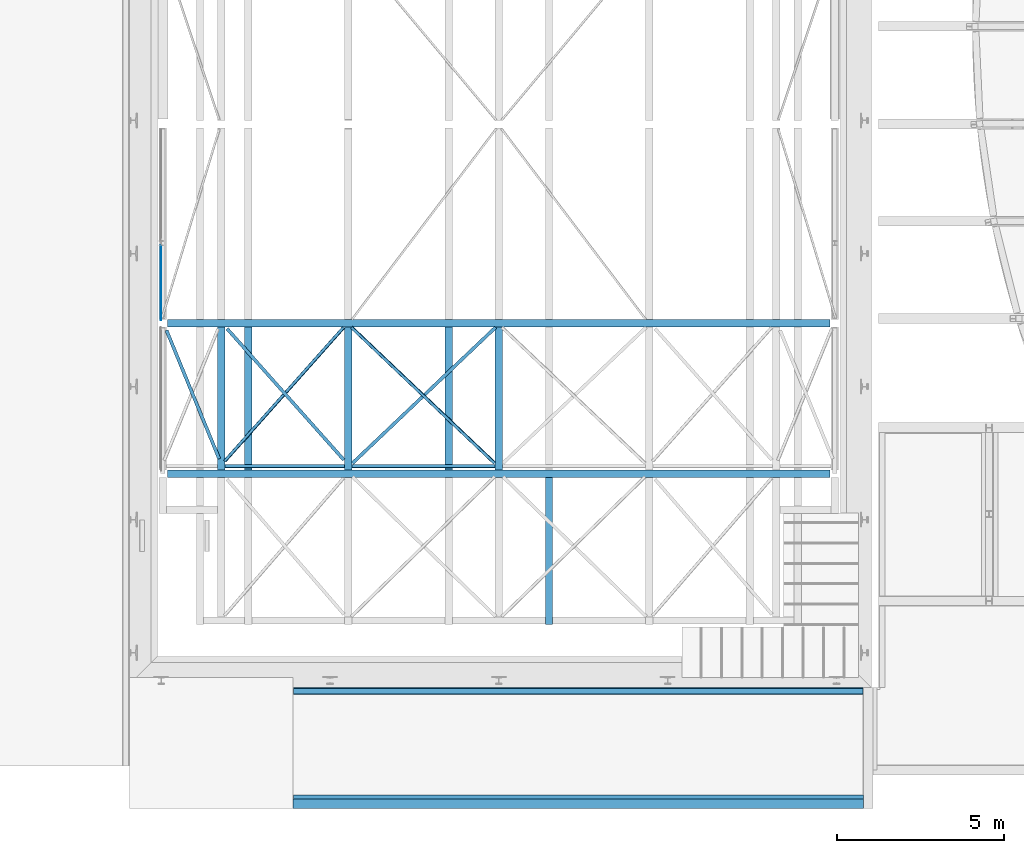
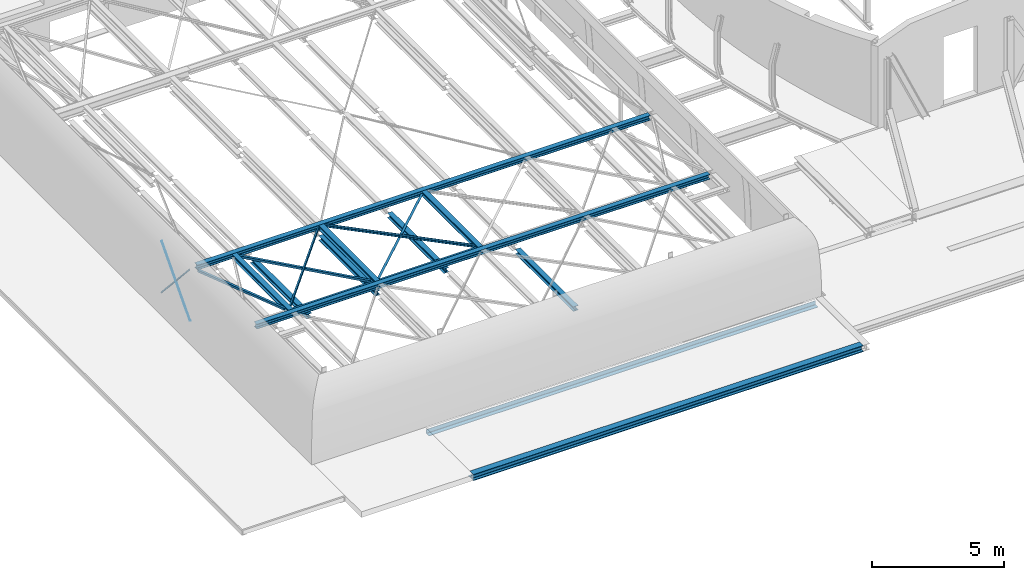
# One storey, part 11 of 38: 20 beams.
"""IFC2X3 building model written with IfcOpenShell, lengths in millimetres."""

from ifc_helpers import new_model, entity, si_unit, converted_unit, derived_unit, direction, frame, frame_2d, origin, place, context, subcontext, project, spatial, polyline, circle_curve, parameter, trimmed, segment, composite_curve, rectangle, i_section, outline, extrude, source, transform, mapped, material, material_list, type_object, type_shapes, element, save


model = new_model("IFC2X3")

# Units and contexts
model_context = context("Model", 3, precision=0.01, world=origin(), true_north=direction((6.12303176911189e-17, 1.0)))
body_context = subcontext(model_context, "Body", "Model", "MODEL_VIEW")
ifc_project = project(units=[si_unit("LENGTHUNIT", "METRE", prefix="MILLI"), si_unit("AREAUNIT", "SQUARE_METRE", prefix="MILLI"), si_unit("VOLUMEUNIT", "CUBIC_METRE"), converted_unit("PLANEANGLEUNIT", "DEGREE", entity("IfcRatioMeasure", 0.0174532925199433), si_unit("PLANEANGLEUNIT", "RADIAN"), dimensions=[0, 0, 0, 0, 0, 0, 0]), si_unit("MASSUNIT", "GRAM", prefix="KILO"), derived_unit("MASSDENSITYUNIT", [(si_unit("MASSUNIT", "GRAM", prefix="KILO"), 1), (si_unit("LENGTHUNIT", "METRE"), -3)]), derived_unit("MOMENTOFINERTIAUNIT", [(si_unit("LENGTHUNIT", "METRE"), 4)]), si_unit("TIMEUNIT", "SECOND"), si_unit("FREQUENCYUNIT", "HERTZ"), si_unit("THERMODYNAMICTEMPERATUREUNIT", "DEGREE_CELSIUS"), derived_unit("THERMALTRANSMITTANCEUNIT", [(si_unit("MASSUNIT", "GRAM", prefix="KILO"), 1), (si_unit("THERMODYNAMICTEMPERATUREUNIT", "KELVIN"), -1), (si_unit("TIMEUNIT", "SECOND"), -3)]), derived_unit("VOLUMETRICFLOWRATEUNIT", [(si_unit("LENGTHUNIT", "METRE"), 3), (si_unit("TIMEUNIT", "SECOND"), -1)]), si_unit("ELECTRICCURRENTUNIT", "AMPERE"), si_unit("ELECTRICVOLTAGEUNIT", "VOLT"), si_unit("POWERUNIT", "WATT"), si_unit("FORCEUNIT", "NEWTON", prefix="KILO"), si_unit("ILLUMINANCEUNIT", "LUX"), si_unit("LUMINOUSFLUXUNIT", "LUMEN"), si_unit("LUMINOUSINTENSITYUNIT", "CANDELA"), derived_unit("USERDEFINED", [(si_unit("MASSUNIT", "GRAM", prefix="KILO"), -1), (si_unit("LENGTHUNIT", "METRE"), -2), (si_unit("TIMEUNIT", "SECOND"), 3), (si_unit("LUMINOUSFLUXUNIT", "LUMEN"), 1)]), derived_unit("LINEARVELOCITYUNIT", [(si_unit("LENGTHUNIT", "METRE"), 1), (si_unit("TIMEUNIT", "SECOND"), -1)]), si_unit("PRESSUREUNIT", "PASCAL"), derived_unit("USERDEFINED", [(si_unit("LENGTHUNIT", "METRE"), -2), (si_unit("MASSUNIT", "GRAM", prefix="KILO"), 1), (si_unit("TIMEUNIT", "SECOND"), -2)]), derived_unit("LINEARFORCEUNIT", [(si_unit("MASSUNIT", "GRAM", prefix="KILO"), 1), (si_unit("LENGTHUNIT", "METRE"), 1), (si_unit("TIMEUNIT", "SECOND"), -2), (si_unit("LENGTHUNIT", "METRE"), -1)]), derived_unit("PLANARFORCEUNIT", [(si_unit("MASSUNIT", "GRAM", prefix="KILO"), 1), (si_unit("LENGTHUNIT", "METRE"), 1), (si_unit("TIMEUNIT", "SECOND"), -2), (si_unit("LENGTHUNIT", "METRE"), -2)])], contexts=[model_context])

# Site, building, storey
site_placement = place(None, origin())
site = spatial("IfcSite", under=ifc_project, at=site_placement, Name="Theater aan de Parade", CompositionType="ELEMENT")
building_placement = place(site_placement, origin())
building = spatial("IfcBuilding", under=site, at=building_placement, Name="Theater aan de Parade", CompositionType="ELEMENT")
storey_placement = place(building_placement, frame((0.0, 0.0, 12480.0)))
storey = spatial("IfcBuildingStorey", under=building, at=storey_placement, Name="03 derde verdieping", CompositionType="ELEMENT", Elevation=12480.0)

# Beams
ifc_material_1 = material(Name="00_PBT_MAT_staal_S355")
beam_type_1 = type_object("IfcBeamType", Name="28_PBT_SF_staal_H-profiel:S355_HE220B", PredefinedType="NOTDEFINED")
beam_1_placement = place(storey_placement, frame((16193.8569884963, 23568.2922985, 1820.0)))
element("IfcBeam", 1, at=beam_1_placement, inside=storey, type_object=beam_type_1, material=ifc_material_1, Name="28_PBT_SF_staal_H-profiel:S355_HE220B", ObjectType="28_PBT_SF_staal_H-profiel:S355_HE220B", context=body_context, shape_type="SweptSolid", body=[
    extrude(i_section(OverallWidth=220.000000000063, OverallDepth=220.0, WebThickness=9.49999999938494, FlangeThickness=15.9999999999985, FilletRadius=18.0000000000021, at=frame_2d((1.08713038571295e-12, 2.16715534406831e-12), x_axis=(0.0, 1.0))), frame((0.0, 0.0, 0.0), z_axis=(1.0, 0.0, 0.0), x_axis=(0.0, 0.0, -1.0)), (0.0, 0.0, 1.0), 19820.0),
])
beam_2_placement = place(storey_placement, frame((16193.8569884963, 19068.2922984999, 1820.0)))
element("IfcBeam", 2, at=beam_2_placement, inside=storey, type_object=beam_type_1, material=ifc_material_1, Name="28_PBT_SF_staal_H-profiel:S355_HE220B", ObjectType="28_PBT_SF_staal_H-profiel:S355_HE220B", context=body_context, shape_type="SweptSolid", body=[
    extrude(i_section(OverallWidth=220.000000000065, OverallDepth=220.0, WebThickness=9.49999999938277, FlangeThickness=15.9999999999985, FilletRadius=18.0000000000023, at=frame_2d((1.08713038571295e-12, 5.41433564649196e-12), x_axis=(0.0, 1.0))), frame((0.0, 0.0, 0.0), z_axis=(1.0, 0.0, 0.0), x_axis=(0.0, 0.0, -1.0)), (0.0, 0.0, 1.0), 19820.0),
])
beam_type_2 = type_object("IfcBeamType", Name="28_PBT_SF_staal_H-profiel:S355_HE220A", PredefinedType="NOTDEFINED")
beam_3_placement = place(storey_placement, frame((17801.8563463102, 23458.2922984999, 1930.0), z_axis=(0.0, 0.0, 1.0), x_axis=(0.0, -1.0, 0.0)))
element("IfcBeam", 3, at=beam_3_placement, inside=storey, type_object=beam_type_2, material=ifc_material_1, Name="28_PBT_SF_staal_H-profiel:S355_HE220A", ObjectType="28_PBT_SF_staal_H-profiel:S355_HE220A", context=body_context, shape_type="SweptSolid", body=[
    extrude(i_section(OverallWidth=220.0, OverallDepth=210.0, WebThickness=7.00000000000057, FlangeThickness=10.9999999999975, FilletRadius=18.0000000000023, at=frame_2d((0.0, 1.08002495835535e-12), x_axis=(0.0, 1.0))), frame((0.0, 0.0, -105.0), z_axis=(1.0, 0.0, 0.0), x_axis=(0.0, 0.0, -1.0)), (0.0, 0.0, 1.0), 4280.00000000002),
])
for number, where, z_axis, x_axis in (
    (4, (21603.8563463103, 23458.2922984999, 1930.0), (0.0, 0.0, 1.0), (0.0, -1.0, 0.0)),
    (5, (26103.8570025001, 23458.2922984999, 1930.0), (0.0, 0.0, 1.0), (0.0, -1.0, 0.0)),
):
    element("IfcBeam", number, at=place(storey_placement, frame(where, z_axis=z_axis, x_axis=x_axis)), inside=storey, type_object=beam_type_2, material=ifc_material_1, Name="28_PBT_SF_staal_H-profiel:S355_HE220A", ObjectType="28_PBT_SF_staal_H-profiel:S355_HE220A", context=body_context, shape_type="SweptSolid", body=[
        extrude(i_section(OverallWidth=219.999999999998, OverallDepth=210.0, WebThickness=7.00000000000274, FlangeThickness=10.9999999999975, FilletRadius=18.0000000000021, at=frame_2d((0.0, -2.16715534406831e-12), x_axis=(0.0, 1.0))), frame((0.0, 0.0, -105.0), z_axis=(1.0, 0.0, 0.0), x_axis=(0.0, 0.0, -1.0)), (0.0, 0.0, 1.0), 4280.00000000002),
    ])
beam_4_placement = place(storey_placement, frame((18603.8563463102, 23458.2922984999, 1930.0), z_axis=(0.0, 0.0, 1.0), x_axis=(0.0, -1.0, 0.0)))
element("IfcBeam", 6, at=beam_4_placement, inside=storey, type_object=beam_type_2, material=ifc_material_1, Name="28_PBT_SF_staal_H-profiel:S355_HE220A", ObjectType="28_PBT_SF_staal_H-profiel:S355_HE220A", context=body_context, shape_type="SweptSolid", body=[
    extrude(i_section(OverallWidth=220.0, OverallDepth=210.0, WebThickness=7.00000000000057, FlangeThickness=10.9999999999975, FilletRadius=18.0000000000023, at=frame_2d((-2.16715534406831e-12, 3.24718030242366e-12), x_axis=(0.0, 1.0))), frame((0.0, 0.0, -585.0), z_axis=(1.0, 0.0, 0.0), x_axis=(0.0, 0.0, -1.0)), (0.0, 0.0, 1.0), 4280.00000000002),
])
beam_5_placement = place(storey_placement, frame((21603.8563463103, 23458.2922985, 1930.0), z_axis=(0.0, 0.0, 1.0), x_axis=(0.0, -1.0, 0.0)))
element("IfcBeam", 7, at=beam_5_placement, inside=storey, type_object=beam_type_2, material=ifc_material_1, Name="28_PBT_SF_staal_H-profiel:S355_HE220A", ObjectType="28_PBT_SF_staal_H-profiel:S355_HE220A", context=body_context, shape_type="SweptSolid", body=[
    extrude(i_section(OverallWidth=219.999999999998, OverallDepth=210.0, WebThickness=7.00000000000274, FlangeThickness=10.9999999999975, FilletRadius=18.0000000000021, at=frame_2d((-2.16715534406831e-12, -2.16715534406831e-12), x_axis=(0.0, 1.0))), frame((0.0, 0.0, -585.0), z_axis=(1.0, 0.0, 0.0), x_axis=(0.0, 0.0, -1.0)), (0.0, 0.0, 1.0), 4280.00000000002),
])
beam_6_placement = place(storey_placement, frame((24603.8563463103, 23458.2922985, 1930.0), z_axis=(0.0, 0.0, 1.0), x_axis=(0.0, -1.0, 0.0)))
element("IfcBeam", 8, at=beam_6_placement, inside=storey, type_object=beam_type_2, material=ifc_material_1, Name="28_PBT_SF_staal_H-profiel:S355_HE220A", ObjectType="28_PBT_SF_staal_H-profiel:S355_HE220A", context=body_context, shape_type="SweptSolid", body=[
    extrude(i_section(OverallWidth=219.999999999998, OverallDepth=210.0, WebThickness=7.00000000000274, FlangeThickness=10.9999999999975, FilletRadius=18.0000000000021, at=frame_2d((-4.32720526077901e-12, -2.16715534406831e-12), x_axis=(0.0, 1.0))), frame((0.0, 0.0, -585.0), z_axis=(1.0, 0.0, 0.0), x_axis=(0.0, 0.0, -1.0)), (0.0, 0.0, 1.0), 4280.00000000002),
])
beam_7_placement = place(storey_placement, frame((27603.8563463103, 18958.2922985, 1930.0), z_axis=(0.0, 0.0, 1.0), x_axis=(0.0, -1.0, 0.0)))
element("IfcBeam", 9, at=beam_7_placement, inside=storey, type_object=beam_type_2, material=ifc_material_1, Name="28_PBT_SF_staal_H-profiel:S355_HE220A", ObjectType="28_PBT_SF_staal_H-profiel:S355_HE220A", context=body_context, shape_type="SweptSolid", body=[
    extrude(i_section(OverallWidth=219.999999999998, OverallDepth=210.0, WebThickness=7.00000000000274, FlangeThickness=10.9999999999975, FilletRadius=18.0000000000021, at=frame_2d((-4.32720526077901e-12, 2.16715534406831e-12), x_axis=(0.0, 1.0))), frame((0.0, 0.0, -585.0), z_axis=(1.0, 0.0, 0.0), x_axis=(0.0, 0.0, -1.0)), (0.0, 0.0, 1.0), 4402.00167890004),
])
beam_type_3 = type_object("IfcBeamType", Name="28_PBT_SF_staal_L-profiel:S355_L200x200x20", PredefinedType="NOTDEFINED")
beam_8_placement = place(storey_placement, frame((19803.857002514, 12612.4267697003, 0.0)))
element("IfcBeam", 10, at=beam_8_placement, inside=storey, type_object=beam_type_3, material=ifc_material_1, Name="28_PBT_SF_staal_L-profiel:S355_L200x200x20", ObjectType="28_PBT_SF_staal_L-profiel:S355_L200x200x20", context=body_context, shape_type="SweptSolid", body=[
    extrude(outline(composite_curve([segment(polyline([(64.5555555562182, -124.444444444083), (75.555555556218, -124.444444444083)]), True, "CONTINUOUS"), segment(polyline([(75.555555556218, -124.444444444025), (75.5555555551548, 75.5555555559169)]), True, "CONTINUOUS"), segment(polyline([(75.5555555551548, 75.5555555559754), (-124.444444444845, 75.5555555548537)]), True, "CONTINUOUS"), segment(polyline([(-124.444444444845, 75.5555555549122), (-124.444444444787, 64.5555555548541)]), True, "CONTINUOUS"), segment(trimmed(circle_curve(frame_2d((-115.444444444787, 64.5555555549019), x_axis=(-1.0, 0.0)), 8.99999999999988), [parameter(0.0)], [parameter(90.0000000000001)], True, "PARAMETER"), True, "CONTINUOUS"), segment(polyline([(-115.444444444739, 55.5555555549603), (37.555555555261, 55.5555555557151)]), True, "CONTINUOUS"), segment(trimmed(circle_curve(frame_2d((37.5555555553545, 37.5555555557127), x_axis=(0.0, 1.0)), 18.0000000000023), [parameter(270.000000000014)], [parameter(0.0)], True, "PARAMETER"), False, "CONTINUOUS"), segment(polyline([(55.5555555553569, 37.5555555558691), (55.5555555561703, -115.444444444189)]), True, "CONTINUOUS"), segment(trimmed(circle_curve(frame_2d((64.5555555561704, -115.444444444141), x_axis=(-1.0, 0.0)), 9.00000000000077), [parameter(0.0)], [parameter(90.0000000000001)], True, "PARAMETER"), True, "CONTINUOUS")], self_intersect=False)), frame((162.699999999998, -18.7555555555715, -549.444444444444), z_axis=(1.0, 0.0, 0.0), x_axis=(0.0, 0.0, -1.0)), (0.0, 0.0, 1.0), 17029.3511275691),
])
ifc_material_2 = material(Name="00_PBT_MAT_Lucht")
ifc_material_list = material_list([ifc_material_1, ifc_material_2])
beam_type_4 = type_object("IfcBeamType", Name="28_PBT_SF_staal_H-profiel_met_ondergelaste_strip (void):S355_HE280B + ondergelaste strip d=15", PredefinedType="BEAM", material=ifc_material_list)
shared_shape = source(origin(), body_context, "Body", "SweptSolid", [
    extrude(outline(composite_curve([segment(polyline([(122.0, -140.0), (140.0, -140.0)]), True, "CONTINUOUS"), segment(polyline([(140.0, -140.0), (140.0, 140.0)]), True, "CONTINUOUS"), segment(polyline([(140.0, 140.0), (122.0, 140.0)]), True, "CONTINUOUS"), segment(polyline([(122.0, 140.0), (122.0, 29.2500000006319)]), True, "CONTINUOUS"), segment(trimmed(circle_curve(frame_2d((98.0, 29.2500000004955), x_axis=(1.0, 0.0)), 24.000000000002), [parameter(270.00000000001)], [parameter(0.0)], True, "PARAMETER"), False, "CONTINUOUS"), segment(polyline([(98.0, 5.25000000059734), (-98.0, 5.24999999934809)]), True, "CONTINUOUS"), segment(trimmed(circle_curve(frame_2d((-98.0, 29.2499999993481), x_axis=(0.0, -1.0)), 24.0000000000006), [parameter(270.0)], [parameter(0.0)], True, "PARAMETER"), False, "CONTINUOUS"), segment(polyline([(-122.0, 29.2499999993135), (-122.0, 140.0)]), True, "CONTINUOUS"), segment(polyline([(-122.0, 140.0), (-140.0, 140.0)]), True, "CONTINUOUS"), segment(polyline([(-140.0, 140.0), (-140.0, -140.0)]), True, "CONTINUOUS"), segment(polyline([(-140.0, -140.0), (-122.0, -140.0)]), True, "CONTINUOUS"), segment(polyline([(-122.0, -140.0), (-122.0, -29.2500000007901)]), True, "CONTINUOUS"), segment(trimmed(circle_curve(frame_2d((-98.0, -29.2500000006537), x_axis=(-1.0, 0.0)), 24.0000000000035), [parameter(270.000000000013)], [parameter(0.0)], True, "PARAMETER"), False, "CONTINUOUS"), segment(polyline([(-98.0, -5.25000000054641), (98.0, -5.24999999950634)]), True, "CONTINUOUS"), segment(trimmed(circle_curve(frame_2d((98.0, -29.2499999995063), x_axis=(0.0, 1.0)), 24.0000000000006), [parameter(270.0)], [parameter(0.0)], True, "PARAMETER"), False, "CONTINUOUS"), segment(polyline([(122.0, -29.2499999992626), (122.0, -140.0)]), True, "CONTINUOUS")], self_intersect=False)), frame((19953.8570025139, 9197.0, 12015.0), z_axis=(1.0, 0.0, 0.0), x_axis=(0.0, 0.0, -1.0)), (0.0, 0.0, 1.0), 17054.7511275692),
    extrude(rectangle(XDim=14.9999999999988, YDim=400.0, at=frame_2d((0.0, -1.05032427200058e-10), x_axis=(1.0, 0.0))), frame((19954.8570025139, 9262.0, 11867.5), z_axis=(1.0, 0.0, 0.0), x_axis=(0.0, 0.0, -1.0)), (0.0, 0.0, 1.0), 17052.7511275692),
])
type_shapes(beam_type_4, [shared_shape])
beam_9_placement = place(storey_placement, frame((0.0, 0.0, -12480.0)))
element("IfcBeam", 11, at=beam_9_placement, inside=storey, type_object=beam_type_4, material=ifc_material_1, Name="28_PBT_SF_staal_H-profiel_met_ondergelaste_strip (void):S355_HE280B + ondergelaste strip d=15", ObjectType="28_PBT_SF_staal_H-profiel_met_ondergelaste_strip (void):S355_HE280B + ondergelaste strip d=15", context=body_context, shape_type="MappedRepresentation", body=[
    mapped(shared_shape, transform((0.0, 0.0, 0.0), scale=1.0)),
])
beam_type_5 = type_object("IfcBeamType", Name="28_PBT_SF_staal_L-profiel:S355_L100x100x10", PredefinedType="NOTDEFINED")
beam_10_placement = place(storey_placement, frame((26103.8570025, 19296.2906196, 1930.0), z_axis=(0.0, 0.0, 1.0), x_axis=(-0.72524068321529, 0.68849542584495, 0.0)))
element("IfcBeam", 12, at=beam_10_placement, inside=storey, type_object=beam_type_5, material=ifc_material_1, Name="28_PBT_SF_staal_L-profiel:S355_L100x100x10", ObjectType="28_PBT_SF_staal_L-profiel:S355_L100x100x10", context=body_context, shape_type="SweptSolid", body=[
    extrude(outline(composite_curve([segment(polyline([(-62.2222222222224, -37.7777777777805), (37.7777777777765, -37.7777777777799)]), True, "CONTINUOUS"), segment(polyline([(37.7777777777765, -37.7777777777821), (37.7777777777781, 62.222222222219)]), True, "CONTINUOUS"), segment(polyline([(37.7777777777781, 62.222222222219), (33.777777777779, 62.2222222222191)]), True, "CONTINUOUS"), segment(trimmed(circle_curve(frame_2d((33.7777777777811, 56.2222222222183), x_axis=(0.0, 1.0)), 6.0000000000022), [parameter(0.0)], [parameter(89.9999999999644)], True, "PARAMETER"), True, "CONTINUOUS"), segment(polyline([(27.7777777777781, 56.2222222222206), (27.777777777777, -15.7777777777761)]), True, "CONTINUOUS"), segment(trimmed(circle_curve(frame_2d((15.7777777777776, -15.777777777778), x_axis=(1.0, 0.0)), 11.9999999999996), [parameter(270.0)], [parameter(0.0)], True, "PARAMETER"), False, "CONTINUOUS"), segment(polyline([(15.7777777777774, -27.7777777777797), (-56.2222222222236, -27.7777777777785)]), True, "CONTINUOUS"), segment(trimmed(circle_curve(frame_2d((-56.2222222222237, -33.7777777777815), x_axis=(0.0, 1.0)), 6.00000000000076), [parameter(0.0)], [parameter(90.0000000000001)], True, "PARAMETER"), True, "CONTINUOUS"), segment(polyline([(-62.2222222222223, -33.7777777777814), (-62.2222222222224, -37.7777777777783)]), True, "CONTINUOUS")], self_intersect=False)), frame((150.0, 9.57777777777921, -67.2222222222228), z_axis=(1.0, 0.0, 0.0), x_axis=(0.0, 0.0, -1.0)), (0.0, 0.0, 1.0), 5904.83668959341),
])
beam_11_placement = place(storey_placement, frame((21603.8563463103, 19296.2906196, 1930.0), z_axis=(0.0, 0.0, 1.0), x_axis=(0.725240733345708, 0.68849537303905, 0.0)))
element("IfcBeam", 13, at=beam_11_placement, inside=storey, type_object=beam_type_5, material=ifc_material_1, Name="28_PBT_SF_staal_L-profiel:S355_L100x100x10", ObjectType="28_PBT_SF_staal_L-profiel:S355_L100x100x10", context=body_context, shape_type="SweptSolid", body=[
    extrude(outline(composite_curve([segment(polyline([(-37.777777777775, -62.222222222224), (-33.7777777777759, -62.222222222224)]), True, "CONTINUOUS"), segment(trimmed(circle_curve(frame_2d((-33.7777777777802, -56.2222222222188), x_axis=(0.0, -1.0)), 6.00000000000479), [parameter(0.0)], [parameter(89.9999999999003)], True, "PARAMETER"), True, "CONTINUOUS"), segment(polyline([(-27.7777777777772, -56.2222222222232), (-27.7777777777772, 15.7777777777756)]), True, "CONTINUOUS"), segment(trimmed(circle_curve(frame_2d((-15.77777777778, 15.77777777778), x_axis=(-1.0, 0.0)), 11.999999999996), [parameter(269.99999999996)], [parameter(0.0)], True, "PARAMETER"), False, "CONTINUOUS"), segment(polyline([(-15.7777777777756, 27.7777777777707), (56.2222222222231, 27.7777777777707)]), True, "CONTINUOUS"), segment(trimmed(circle_curve(frame_2d((56.2222222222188, 33.777777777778), x_axis=(0.0, -1.0)), 6.00000000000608), [parameter(0.0)], [parameter(89.9999999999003)], True, "PARAMETER"), True, "CONTINUOUS"), segment(polyline([(62.2222222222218, 33.7777777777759), (62.2222222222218, 37.777777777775)]), True, "CONTINUOUS"), segment(polyline([(62.2222222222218, 37.777777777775), (-37.7777777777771, 37.777777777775)]), True, "CONTINUOUS"), segment(polyline([(-37.7777777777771, 37.7777777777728), (-37.7777777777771, -62.222222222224)]), True, "CONTINUOUS")], self_intersect=False)), frame((150.0, -9.57777777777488, -144.577777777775), z_axis=(1.0, 0.0, 0.0), x_axis=(0.0, 0.0, -1.0)), (0.0, 0.0, 1.0), 5904.83716548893),
])
beam_12_placement = place(storey_placement, frame((21603.8563463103, 23568.2922985, 1930.0), z_axis=(0.0, 0.0, 1.0), x_axis=(-0.664477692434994, -0.747308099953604, 0.0)))
element("IfcBeam", 14, at=beam_12_placement, inside=storey, type_object=beam_type_5, material=ifc_material_1, Name="28_PBT_SF_staal_L-profiel:S355_L100x100x10", ObjectType="28_PBT_SF_staal_L-profiel:S355_L100x100x10", context=body_context, shape_type="SweptSolid", body=[
    extrude(outline(composite_curve([segment(polyline([(33.777777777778, -62.2222222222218), (37.7777777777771, -62.2222222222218)]), True, "CONTINUOUS"), segment(polyline([(37.7777777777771, -62.2222222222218), (37.7777777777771, 37.7777777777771)]), True, "CONTINUOUS"), segment(polyline([(37.7777777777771, 37.7777777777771), (-62.2222222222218, 37.7777777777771)]), True, "CONTINUOUS"), segment(polyline([(-62.2222222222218, 37.7777777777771), (-62.2222222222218, 33.777777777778)]), True, "CONTINUOUS"), segment(trimmed(circle_curve(frame_2d((-56.2222222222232, 33.777777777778), x_axis=(-1.0, 0.0)), 5.99999999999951), [parameter(0.0)], [parameter(90.0000000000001)], True, "PARAMETER"), True, "CONTINUOUS"), segment(polyline([(-56.2222222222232, 27.7777777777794), (15.7777777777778, 27.7777777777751)]), True, "CONTINUOUS"), segment(trimmed(circle_curve(frame_2d((15.7777777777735, 15.7777777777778), x_axis=(0.0, 1.0)), 12.0000000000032), [parameter(270.000000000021)], [parameter(0.0)], True, "PARAMETER"), False, "CONTINUOUS"), segment(polyline([(27.7777777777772, 15.7777777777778), (27.7777777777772, -56.2222222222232)]), True, "CONTINUOUS"), segment(trimmed(circle_curve(frame_2d((33.777777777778, -56.2222222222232), x_axis=(-1.0, 0.0)), 5.99999999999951), [parameter(0.0)], [parameter(90.0000000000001)], True, "PARAMETER"), True, "CONTINUOUS")], self_intersect=False)), frame((190.660842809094, -9.57777777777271, -67.2222222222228), z_axis=(1.0, 0.0, 0.0), x_axis=(0.0, 0.0, -1.0)), (0.0, 0.0, 1.0), 5349.90738768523),
])
beam_13_placement = place(storey_placement, frame((17801.8563463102, 23568.2922985, 1930.0), z_axis=(0.0, 0.0, 1.0), x_axis=(0.664819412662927, -0.747004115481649, 0.0)))
element("IfcBeam", 15, at=beam_13_placement, inside=storey, type_object=beam_type_5, material=ifc_material_1, Name="28_PBT_SF_staal_L-profiel:S355_L100x100x10", ObjectType="28_PBT_SF_staal_L-profiel:S355_L100x100x10", context=body_context, shape_type="SweptSolid", body=[
    extrude(outline(composite_curve([segment(polyline([(-37.7777777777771, -37.777777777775), (62.2222222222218, -37.777777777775)]), True, "CONTINUOUS"), segment(polyline([(62.2222222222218, -37.777777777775), (62.2222222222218, -33.7777777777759)]), True, "CONTINUOUS"), segment(trimmed(circle_curve(frame_2d((56.2222222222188, -33.7777777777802), x_axis=(1.0, 0.0)), 6.00000000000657), [parameter(0.0)], [parameter(89.9999999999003)], True, "PARAMETER"), True, "CONTINUOUS"), segment(polyline([(56.2222222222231, -27.7777777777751), (-15.7777777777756, -27.7777777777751)]), True, "CONTINUOUS"), segment(trimmed(circle_curve(frame_2d((-15.7777777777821, -15.77777777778), x_axis=(0.0, -1.0)), 11.9999999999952), [parameter(269.999999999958)], [parameter(0.0)], True, "PARAMETER"), False, "CONTINUOUS"), segment(polyline([(-27.7777777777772, -15.7777777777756), (-27.7777777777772, 56.2222222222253)]), True, "CONTINUOUS"), segment(trimmed(circle_curve(frame_2d((-33.7777777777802, 56.2222222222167), x_axis=(1.0, 0.0)), 6.00000000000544), [parameter(0.0)], [parameter(89.9999999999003)], True, "PARAMETER"), True, "CONTINUOUS"), segment(polyline([(-33.7777777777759, 62.2222222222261), (-37.777777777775, 62.2222222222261)]), True, "CONTINUOUS"), segment(polyline([(-37.7777777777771, 62.2222222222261), (-37.7777777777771, -37.777777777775)]), True, "CONTINUOUS")], self_intersect=False)), frame((235.529860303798, 9.57777777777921, -144.577777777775), z_axis=(1.0, 0.0, 0.0), x_axis=(0.0, 0.0, -1.0)), (0.0, 0.0, 1.0), 5257.52905826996),
])
beam_14_placement = place(storey_placement, frame((16053.8570032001, 23568.2922985, 1930.0), z_axis=(0.0, 0.0, 1.0), x_axis=(0.37934932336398, -0.925253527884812, 0.0)))
element("IfcBeam", 16, at=beam_14_placement, inside=storey, type_object=beam_type_5, material=ifc_material_1, Name="28_PBT_SF_staal_L-profiel:S355_L100x100x10", ObjectType="28_PBT_SF_staal_L-profiel:S355_L100x100x10", context=body_context, shape_type="SweptSolid", body=[
    extrude(outline(composite_curve([segment(polyline([(-37.7777777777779, -37.7777777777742), (62.222222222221, -37.777777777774)]), True, "CONTINUOUS"), segment(polyline([(62.222222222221, -37.7777777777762), (62.2222222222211, -33.7777777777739)]), True, "CONTINUOUS"), segment(trimmed(circle_curve(frame_2d((56.2222222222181, -33.7777777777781), x_axis=(1.0, 0.0)), 6.0000000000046), [parameter(0.0)], [parameter(89.9999999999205)], True, "PARAMETER"), True, "CONTINUOUS"), segment(polyline([(56.2222222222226, -27.7777777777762), (-15.7777777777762, -27.7777777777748)]), True, "CONTINUOUS"), segment(trimmed(circle_curve(frame_2d((-15.7777777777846, -15.7777777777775), x_axis=(0.0, -1.0)), 11.9999999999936), [parameter(269.999999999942)], [parameter(0.0)], True, "PARAMETER"), False, "CONTINUOUS"), segment(polyline([(-27.7777777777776, -15.7777777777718), (-27.7777777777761, 56.222222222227)]), True, "CONTINUOUS"), segment(trimmed(circle_curve(frame_2d((-33.7777777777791, 56.2222222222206), x_axis=(1.0, 0.0)), 6.00000000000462), [parameter(0.0)], [parameter(89.9999999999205)], True, "PARAMETER"), True, "CONTINUOUS"), segment(polyline([(-33.7777777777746, 62.2222222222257), (-37.7777777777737, 62.222222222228)]), True, "CONTINUOUS"), segment(polyline([(-37.7777777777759, 62.2222222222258), (-37.7777777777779, -37.7777777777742)]), True, "CONTINUOUS")], self_intersect=False)), frame((235.529860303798, 9.57777777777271, -144.577777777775), z_axis=(1.0, 0.0, 0.0), x_axis=(0.0, 0.0, -1.0)), (0.0, 0.0, 1.0), 4155.79753105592),
])
ifc_material_3 = material(Name="00_PBT_MAT_staal")
beam_type_6 = type_object("IfcBeamType", Name="28_PBT_SF_staal_strip:strip 6x60", PredefinedType="NOTDEFINED")
beam_15_placement = place(storey_placement, frame((15986.3570032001, 23568.2922984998, 1820.0), z_axis=(1.0, 0.0, 0.0), x_axis=(0.0, 0.672602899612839, -0.740003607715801)))
element("IfcBeam", 17, at=beam_15_placement, inside=storey, type_object=beam_type_6, material=ifc_material_3, Name="28_PBT_SF_staal_strip:strip 6x60", ObjectType="28_PBT_SF_staal_strip:strip 6x60", context=body_context, shape_type="SweptSolid", body=[
    extrude(rectangle(XDim=60.0000000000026, YDim=5.99999999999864, at=frame_2d((0.0, 2.33058017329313e-12), x_axis=(0.0, 1.0))), frame((215.777997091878, 0.0, 3.0), z_axis=(1.0, 0.0, 0.0), x_axis=(0.0, 0.0, -1.0)), (0.0, 0.0, 1.0), 3220.03101342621),
])
beam_16_placement = place(storey_placement, frame((16001.3570032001, 25956.3294776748, 1823.69025672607), z_axis=(1.0, 0.0, 0.0), x_axis=(0.0, -0.671013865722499, -0.741444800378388)))
element("IfcBeam", 18, at=beam_16_placement, inside=storey, type_object=beam_type_6, material=ifc_material_3, Name="28_PBT_SF_staal_strip:strip 6x60", ObjectType="28_PBT_SF_staal_strip:strip 6x60", context=body_context, shape_type="SweptSolid", body=[
    extrude(rectangle(XDim=60.0000000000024, YDim=6.0000000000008, at=frame_2d((2.16582307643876e-12, 7.24753590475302e-13), x_axis=(0.0, 1.0))), frame((186.247853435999, 0.0, -3.0), z_axis=(1.0, 0.0, 0.0), x_axis=(0.0, 0.0, -1.0)), (0.0, 0.0, 1.0), 3208.67033759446),
])
beam_type_7 = type_object("IfcBeamType", Name="28_PBT_SF_staal_koker:S355_K100x100x8", PredefinedType="NOTDEFINED")
beam_17_placement = place(storey_placement, frame((17911.8563463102, 19296.2906196, 1930.0)))
element("IfcBeam", 19, at=beam_17_placement, inside=storey, type_object=beam_type_7, material=ifc_material_1, Name="28_PBT_SF_staal_koker:S355_K100x100x8", ObjectType="28_PBT_SF_staal_koker:S355_K100x100x8", context=body_context, shape_type="SweptSolid", body=[
    extrude(outline(composite_curve([segment(polyline([(-38.0, -50.0), (38.0, -50.0)]), True, "CONTINUOUS"), segment(trimmed(circle_curve(frame_2d((38.0, -38.0), x_axis=(0.0, 1.0)), 12.0), [parameter(180.0)], [parameter(270.0)], True, "PARAMETER"), True, "CONTINUOUS"), segment(polyline([(50.0, -38.0), (50.0, 38.0)]), True, "CONTINUOUS"), segment(trimmed(circle_curve(frame_2d((38.0, 38.0), x_axis=(0.0, 1.0)), 12.0), [parameter(270.0)], [parameter(360.0)], True, "PARAMETER"), True, "CONTINUOUS"), segment(polyline([(38.0, 50.0), (-38.0, 50.0)]), True, "CONTINUOUS"), segment(trimmed(circle_curve(frame_2d((-38.0, 38.0), x_axis=(0.0, 1.0)), 12.0), [parameter(0.0)], [parameter(90.0000000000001)], True, "PARAMETER"), True, "CONTINUOUS"), segment(polyline([(-50.0, 38.0), (-50.0, -38.0)]), True, "CONTINUOUS"), segment(trimmed(circle_curve(frame_2d((-38.0, -38.0), x_axis=(0.0, 1.0)), 12.0), [parameter(90.0)], [parameter(180.0)], True, "PARAMETER"), True, "CONTINUOUS")], self_intersect=False), holes=[composite_curve([segment(polyline([(42.0, 34.0), (42.0, -34.0)]), True, "CONTINUOUS"), segment(trimmed(circle_curve(frame_2d((34.0, -34.0), x_axis=(0.0, 1.0)), 8.0), [parameter(180.0)], [parameter(270.0)], True, "PARAMETER"), False, "CONTINUOUS"), segment(polyline([(34.0, -42.0), (-34.0, -42.0)]), True, "CONTINUOUS"), segment(trimmed(circle_curve(frame_2d((-34.0, -34.0), x_axis=(0.0, 1.0)), 8.0), [parameter(90.0)], [parameter(180.0)], True, "PARAMETER"), False, "CONTINUOUS"), segment(polyline([(-42.0, -34.0), (-42.0, 34.0)]), True, "CONTINUOUS"), segment(trimmed(circle_curve(frame_2d((-34.0, 34.0), x_axis=(0.0, 1.0)), 8.0), [parameter(3.56222124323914e-13)], [parameter(90.0000000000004)], True, "PARAMETER"), False, "CONTINUOUS"), segment(polyline([(-34.0, 42.0), (34.0, 42.0)]), True, "CONTINUOUS"), segment(trimmed(circle_curve(frame_2d((34.0, 34.0), x_axis=(0.0, 1.0)), 8.0), [parameter(270.0)], [parameter(5.08888749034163e-14)], True, "PARAMETER"), False, "CONTINUOUS")], self_intersect=False)]), frame((0.0, 0.0, -110.0), z_axis=(1.0, 0.0, 0.0), x_axis=(0.0, 0.0, 1.0)), (0.0, 0.0, 1.0), 3582.00000000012),
])
beam_18_placement = place(storey_placement, frame((21713.8563463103, 19296.2906196, 1930.0)))
element("IfcBeam", 20, at=beam_18_placement, inside=storey, type_object=beam_type_7, material=ifc_material_1, Name="28_PBT_SF_staal_koker:S355_K100x100x8", ObjectType="28_PBT_SF_staal_koker:S355_K100x100x8", context=body_context, shape_type="SweptSolid", body=[
    extrude(outline(composite_curve([segment(polyline([(-38.0, -50.0), (38.0, -50.0)]), True, "CONTINUOUS"), segment(trimmed(circle_curve(frame_2d((38.0, -38.0), x_axis=(0.0, 1.0)), 12.0), [parameter(180.0)], [parameter(270.0)], True, "PARAMETER"), True, "CONTINUOUS"), segment(polyline([(50.0, -38.0), (50.0, 38.0)]), True, "CONTINUOUS"), segment(trimmed(circle_curve(frame_2d((38.0, 38.0), x_axis=(0.0, 1.0)), 12.0), [parameter(270.0)], [parameter(360.0)], True, "PARAMETER"), True, "CONTINUOUS"), segment(polyline([(38.0, 50.0), (-38.0, 50.0)]), True, "CONTINUOUS"), segment(trimmed(circle_curve(frame_2d((-38.0, 38.0), x_axis=(0.0, 1.0)), 12.0), [parameter(0.0)], [parameter(90.0000000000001)], True, "PARAMETER"), True, "CONTINUOUS"), segment(polyline([(-50.0, 38.0), (-50.0, -38.0)]), True, "CONTINUOUS"), segment(trimmed(circle_curve(frame_2d((-38.0, -38.0), x_axis=(0.0, 1.0)), 12.0), [parameter(90.0)], [parameter(180.0)], True, "PARAMETER"), True, "CONTINUOUS")], self_intersect=False), holes=[composite_curve([segment(polyline([(42.0, 34.0), (42.0, -34.0)]), True, "CONTINUOUS"), segment(trimmed(circle_curve(frame_2d((34.0, -34.0), x_axis=(0.0, 1.0)), 8.0), [parameter(180.0)], [parameter(270.0)], True, "PARAMETER"), False, "CONTINUOUS"), segment(polyline([(34.0, -42.0), (-34.0, -42.0)]), True, "CONTINUOUS"), segment(trimmed(circle_curve(frame_2d((-34.0, -34.0), x_axis=(0.0, 1.0)), 8.0), [parameter(90.0)], [parameter(180.0)], True, "PARAMETER"), False, "CONTINUOUS"), segment(polyline([(-42.0, -34.0), (-42.0, 34.0)]), True, "CONTINUOUS"), segment(trimmed(circle_curve(frame_2d((-34.0, 34.0), x_axis=(0.0, 1.0)), 8.0), [parameter(3.56222124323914e-13)], [parameter(90.0000000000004)], True, "PARAMETER"), False, "CONTINUOUS"), segment(polyline([(-34.0, 42.0), (34.0, 42.0)]), True, "CONTINUOUS"), segment(trimmed(circle_curve(frame_2d((34.0, 34.0), x_axis=(0.0, 1.0)), 8.0), [parameter(270.0)], [parameter(5.08888749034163e-14)], True, "PARAMETER"), False, "CONTINUOUS")], self_intersect=False)]), frame((0.0, 0.0, -110.0), z_axis=(1.0, 0.0, 0.0), x_axis=(0.0, 0.0, 1.0)), (0.0, 0.0, 1.0), 4280.00065618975),
])

save(model, "model.ifc")
